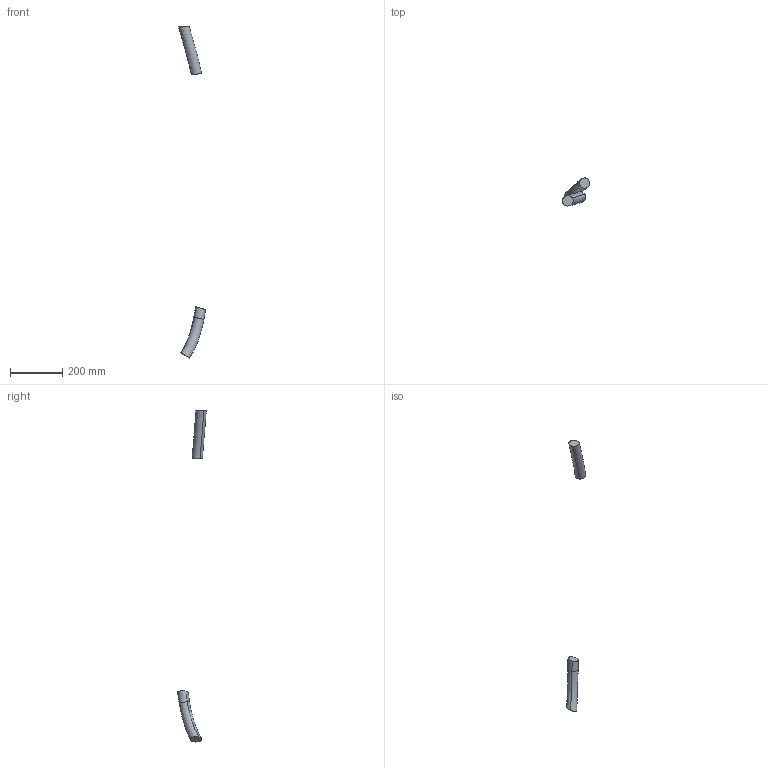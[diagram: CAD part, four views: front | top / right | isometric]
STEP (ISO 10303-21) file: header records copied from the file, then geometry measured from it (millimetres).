
FILE_DESCRIPTION (( 'STEP AP214' ), '1' );
FILE_NAME ('IRB6720-LID-MH_140kg-320_OC_00_LINK02_CABLE.step', '2026-06-10T12:00:04', ( '' ), ( '' ), 'SwSTEP 2.0', 'SolidWorks 2024', '' );
FILE_SCHEMA (( 'AUTOMOTIVE_DESIGN' ));
Length unit declared in the file: millimetre
Products named in the file (1): IRB6720-LID-MH_140kg-320_OC_00_LINK02_CABLE
Bounding box: 104.31 x 109.18 x 1265.51 mm (x, y, z)
Volume: 478227.9 mm3; surface area: 53396.5 mm2
Topology: 2 solids, 2 shells, 10 faces, 16 edges, 10 vertices
Faces by surface type: bspline 6, plane 4
Entity records: 71418 total; most frequent: CARTESIAN_POINT 71249, ORIENTED_EDGE 32, EDGE_CURVE 16, B_SPLINE_CURVE_WITH_KNOTS 16, FACE_OUTER_BOUND 10, EDGE_LOOP 10, ADVANCED_FACE 10, DIRECTION 10
